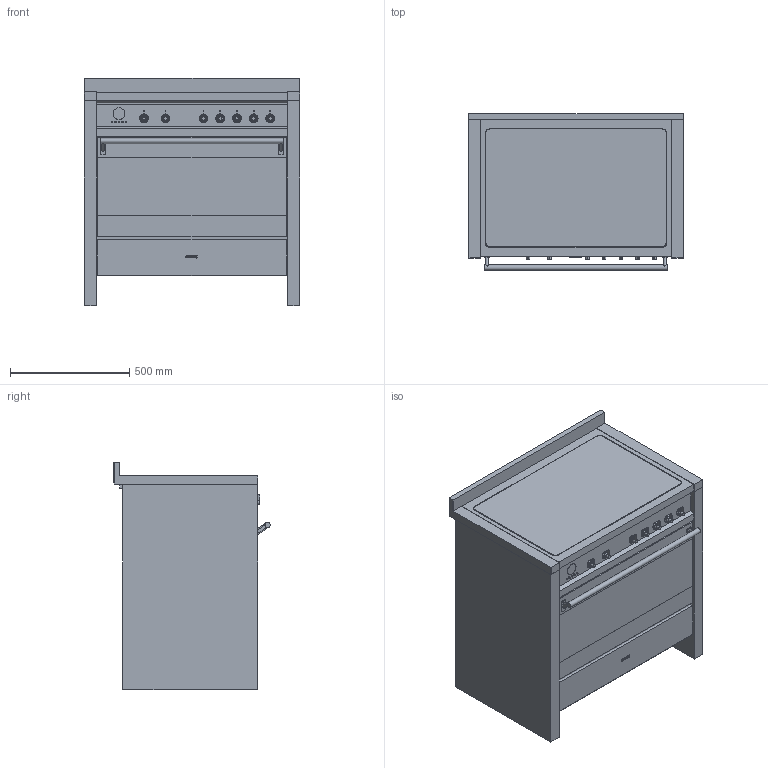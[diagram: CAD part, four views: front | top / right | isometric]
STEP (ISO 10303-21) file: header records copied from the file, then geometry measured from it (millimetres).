
FILE_DESCRIPTION(/* description */ (''),/* implementation_level */ '2;1');
FILE_NAME(/* name */ 'A1PYPD-7.stp',/* time_stamp */ '2012-06-27T15:11:46+02:00',/* author */ (''),/* organization */ (''),/* preprocessor_version */ 'ST-DEVELOPER v11',/* originating_system */ 'SIEMENS PLM Software NX 7.5',/* authorisation */ '');
FILE_SCHEMA (('AUTOMOTIVE_DESIGN { 1 0 10303 214 1 1 1 1 }'));
Length unit declared in the file: millimetre
Products named in the file (1): FIOR1C079k1b
Bounding box: 900 x 654.5 x 951.1 mm (x, y, z)
Volume: 77005833.1 mm3; surface area: 7337123.2 mm2
Topology: 32 solids, 32 shells, 457 faces, 1017 edges, 666 vertices
Faces by surface type: plane 274, cylinder 104, torus 42, cone 26, extrusion 11
Full cylindrical faces by diameter (mm): 4.608 x6, 6 x10, 14.996 x7, 17 x7, 22 x4, 50 x2
Entity records: 12703 total; most frequent: CARTESIAN_POINT 2605, DIRECTION 2066, ORIENTED_EDGE 1816, EDGE_CURVE 908, AXIS2_PLACEMENT_3D 754, VERTEX_POINT 651, EDGE_LOOP 593, VECTOR 558
